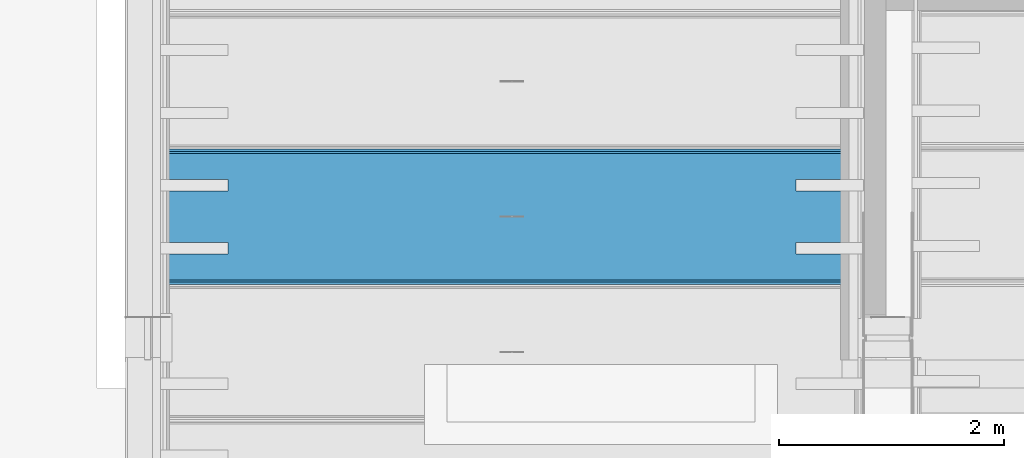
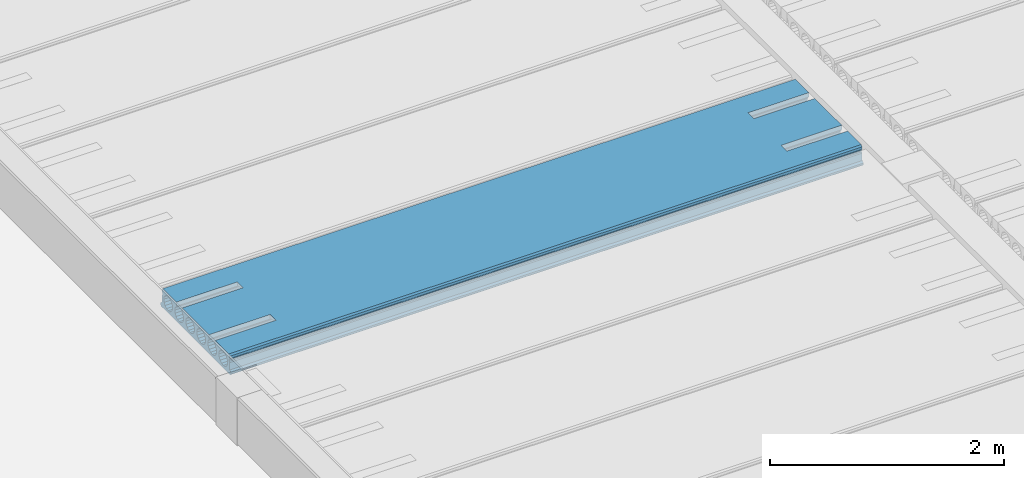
# One storey, part 78 of 230: 1 beam.
"""IFC4X3_ADD2 building model written with IfcOpenShell, lengths in millimetres."""

from ifc_helpers import new_model, si_unit, direction, origin_with_axes, place, context, subcontext, project, spatial, polygons, element, save


model = new_model("IFC4X3_ADD2")

# Units and contexts
model_context = context("Model", 3, precision=1e-05, world=origin_with_axes(), true_north=direction((0.0, 1.0)))
body_context = subcontext(model_context, "Body", "Model", "MODEL_VIEW")
ifc_project = project(units=[si_unit("LENGTHUNIT", "METRE", prefix="MILLI"), si_unit("AREAUNIT", "SQUARE_METRE"), si_unit("VOLUMEUNIT", "CUBIC_METRE"), si_unit("PLANEANGLEUNIT", "RADIAN"), si_unit("TIMEUNIT", "SECOND"), si_unit("MASSUNIT", "GRAM")], contexts=[model_context])

# Site, building, storey
site_placement = place(None, origin_with_axes())
site = spatial("IfcSite", under=ifc_project, at=site_placement, Name="Site", CompositionType="ELEMENT")
building_placement = place(site_placement, origin_with_axes())
building = spatial("IfcBuilding", under=site, at=building_placement, Name="IFC Building Story")
storey_placement = place(building_placement, origin_with_axes())
storey = spatial("IfcBuildingStorey", under=building, at=storey_placement, Name="ETAGE 00 (0)", Elevation=0.0)

# Beam
beam_placement = place(storey_placement, origin_with_axes())
element("IfcBeam", 1, at=beam_placement, inside=storey, Name="HOLLOWCORE SLAB", ObjectType="EB_SP200", context=body_context, shape_type="Tessellation", body=[
    polygons([(33515.6922247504, -6370.999771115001, 3999.9999909), (33515.6922247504, -7548.999771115, 3999.9999909), (33515.6922247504, -7559.999771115, 4012.9999909), (33515.6922247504, -7559.999771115, 4029.9999909), (33515.6922247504, -7539.999771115, 4044.9999909), (33515.6922247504, -7538.549758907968, 4119.9999909), (33515.6922247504, -7531.017149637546, 4128.676139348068), (33515.6922247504, -7528.159841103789, 4139.805000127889), (33515.6922247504, -7530.581134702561, 4151.036789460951), (33515.6922247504, -7537.769790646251, 4159.9999909), (33515.6922247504, -7537.288474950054, 4185.002769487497), (33515.6922247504, -7521.999771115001, 4199.9999909), (33515.6922247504, -7289.999771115, 4199.9999909), (33515.6922247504, -7289.999771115, 4155.806158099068), (33515.6922247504, -7294.679226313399, 4152.679446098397), (33515.6922247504, -7310.828796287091, 4128.509906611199), (33515.6922247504, -7316.499771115, 4099.9999909), (33515.6922247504, -7310.828796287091, 4071.490075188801), (33515.6922247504, -7294.679226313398, 4047.320535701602), (33515.6922247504, -7270.509686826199, 4031.170965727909), (33515.6922247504, -7241.999771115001, 4025.4999909), (33515.6922247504, -7213.489855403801, 4031.170965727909), (33515.6922247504, -7189.320315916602, 4047.320535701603), (33515.6922247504, -7173.170745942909, 4071.490075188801), (33515.6922247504, -7167.499771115, 4099.9999909), (33515.6922247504, -7173.170745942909, 4128.509906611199), (33515.6922247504, -7189.320315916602, 4152.679446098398), (33515.6922247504, -7189.999771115, 4153.13344354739), (33515.6922247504, -7189.999771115, 4199.9999909), (33515.6922247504, -6729.999771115, 4199.9999909), (33515.6922247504, -6729.999771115, 4153.13344354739), (33515.6922247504, -6730.679226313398, 4152.679446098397), (33515.6922247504, -6746.828796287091, 4128.509906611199), (33515.6922247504, -6752.499771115, 4099.9999909), (33515.6922247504, -6746.828796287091, 4071.490075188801), (33515.6922247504, -6730.679226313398, 4047.320535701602), (33515.6922247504, -6706.509686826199, 4031.170965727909), (33515.6922247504, -6677.999771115, 4025.4999909), (33515.6922247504, -6649.489855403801, 4031.170965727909), (33515.6922247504, -6625.320315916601, 4047.320535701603), (33515.6922247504, -6609.170745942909, 4071.490075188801), (33515.6922247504, -6603.499771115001, 4099.9999909), (33515.6922247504, -6609.17074594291, 4128.509906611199), (33515.6922247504, -6625.320315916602, 4152.679446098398), (33515.6922247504, -6629.999771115, 4155.806158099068), (33515.6922247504, -6629.999771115, 4199.9999909), (33515.6922247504, -6397.999771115, 4199.9999909), (33515.6922247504, -6382.711067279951, 4185.002769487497), (33515.6922247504, -6382.22975158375, 4159.9999909), (33515.6922247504, -6389.418407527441, 4151.036789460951), (33515.6922247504, -6391.83970112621, 4139.805000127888), (33515.6922247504, -6388.98239259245, 4128.676139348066), (33515.6922247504, -6381.44978332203, 4119.9999909), (33515.6922247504, -6379.999771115, 4044.9999909), (33515.6922247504, -6359.999771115, 4029.9999909), (33515.6922247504, -6359.999771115, 4012.9999909), (33515.6922247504, -6437.3203159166, 4152.679446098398), (33515.6922247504, -6461.489855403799, 4168.829016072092), (33515.6922247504, -6489.999771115, 4174.4999909), (33515.6922247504, -6518.509686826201, 4168.829016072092), (33515.6922247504, -6542.679226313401, 4152.679446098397), (33515.6922247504, -6558.82879628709, 4128.509906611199), (33515.6922247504, -6564.499771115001, 4099.9999909), (33515.6922247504, -6558.82879628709, 4071.490075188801), (33515.6922247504, -6542.679226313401, 4047.320535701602), (33515.6922247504, -6518.509686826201, 4031.170965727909), (33515.6922247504, -6489.999771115, 4025.4999909), (33515.6922247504, -6461.489855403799, 4031.170965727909), (33515.6922247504, -6437.3203159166, 4047.320535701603), (33515.6922247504, -6421.17074594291, 4071.490075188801), (33515.6922247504, -6415.499771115, 4099.9999909), (33515.6922247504, -6421.17074594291, 4128.509906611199), (33515.6922247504, -6813.320315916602, 4152.679446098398), (33515.6922247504, -6837.489855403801, 4168.829016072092), (33515.6922247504, -6865.999771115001, 4174.4999909), (33515.6922247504, -6894.509686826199, 4168.829016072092), (33515.6922247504, -6918.679226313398, 4152.679446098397), (33515.6922247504, -6934.828796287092, 4128.509906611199), (33515.6922247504, -6940.499771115, 4099.9999909), (33515.6922247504, -6934.828796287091, 4071.490075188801), (33515.6922247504, -6918.679226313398, 4047.320535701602), (33515.6922247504, -6894.509686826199, 4031.170965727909), (33515.6922247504, -6865.999771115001, 4025.4999909), (33515.6922247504, -6837.489855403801, 4031.170965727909), (33515.6922247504, -6813.320315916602, 4047.320535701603), (33515.6922247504, -6797.170745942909, 4071.490075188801), (33515.6922247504, -6791.499771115, 4099.9999909), (33515.6922247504, -6797.170745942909, 4128.509906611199), (33515.6922247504, -7001.320315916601, 4152.679446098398), (33515.6922247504, -7025.489855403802, 4168.829016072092), (33515.6922247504, -7053.999771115, 4174.4999909), (33515.6922247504, -7082.509686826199, 4168.829016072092), (33515.6922247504, -7106.679226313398, 4152.679446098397), (33515.6922247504, -7122.828796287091, 4128.509906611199), (33515.6922247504, -7128.499771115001, 4099.9999909), (33515.6922247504, -7122.828796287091, 4071.490075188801), (33515.6922247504, -7106.679226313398, 4047.320535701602), (33515.6922247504, -7082.509686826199, 4031.170965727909), (33515.6922247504, -7053.999771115, 4025.4999909), (33515.6922247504, -7025.489855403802, 4031.170965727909), (33515.6922247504, -7001.320315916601, 4047.320535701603), (33515.6922247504, -6985.170745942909, 4071.490075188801), (33515.6922247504, -6979.499771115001, 4099.9999909), (33515.6922247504, -6985.17074594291, 4128.509906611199), (33515.6922247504, -7377.320315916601, 4152.679446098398), (33515.6922247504, -7401.489855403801, 4168.829016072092), (33515.6922247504, -7429.999771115, 4174.4999909), (33515.6922247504, -7458.5096868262, 4168.829016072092), (33515.6922247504, -7482.679226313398, 4152.679446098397), (33515.6922247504, -7498.828796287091, 4128.509906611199), (33515.6922247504, -7504.499771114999, 4099.9999909), (33515.6922247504, -7498.828796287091, 4071.490075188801), (33515.6922247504, -7482.679226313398, 4047.320535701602), (33515.6922247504, -7458.5096868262, 4031.170965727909), (33515.6922247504, -7429.999771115, 4025.4999909), (33515.6922247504, -7401.489855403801, 4031.170965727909), (33515.6922247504, -7377.320315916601, 4047.320535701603), (33515.6922247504, -7361.170745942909, 4071.490075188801), (33515.6922247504, -7355.499771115, 4099.9999909), (33515.6922247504, -7361.170745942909, 4128.509906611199), (39750.6922247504, -6370.999771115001, 3999.9999909), (39750.6922247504, -6359.999771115, 4012.9999909), (39750.6922247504, -6359.999771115, 4029.9999909), (39750.6922247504, -6379.999771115, 4044.9999909), (39750.6922247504, -6381.44978332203, 4119.9999909), (39750.6922247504, -6388.98239259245, 4128.676139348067), (39750.6922247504, -6391.83970112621, 4139.805000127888), (39750.6922247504, -6389.418407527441, 4151.036789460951), (39750.6922247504, -6382.22975158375, 4159.9999909), (39750.6922247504, -6382.711067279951, 4185.002769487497), (39750.6922247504, -6397.999771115, 4199.9999909), (39750.6922247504, -6629.999771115, 4199.9999909), (39750.6922247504, -6629.999771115, 4155.806158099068), (39750.6922247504, -6625.320315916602, 4152.679446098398), (39750.6922247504, -6609.170745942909, 4128.509906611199), (39750.6922247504, -6603.499771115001, 4099.9999909), (39750.6922247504, -6609.170745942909, 4071.490075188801), (39750.6922247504, -6625.320315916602, 4047.320535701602), (39750.6922247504, -6649.489855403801, 4031.170965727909), (39750.6922247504, -6677.999771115, 4025.4999909), (39750.6922247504, -6706.509686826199, 4031.170965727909), (39750.6922247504, -6730.679226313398, 4047.320535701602), (39750.6922247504, -6746.828796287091, 4071.490075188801), (39750.6922247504, -6752.499771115, 4099.9999909), (39750.6922247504, -6746.828796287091, 4128.509906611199), (39750.6922247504, -6730.679226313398, 4152.679446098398), (39750.6922247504, -6729.999771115, 4153.13344354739), (39750.6922247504, -6729.999771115, 4199.9999909), (39750.6922247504, -7189.999771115, 4199.9999909), (39750.6922247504, -7189.999771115, 4153.13344354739), (39750.6922247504, -7189.320315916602, 4152.679446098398), (39750.6922247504, -7173.170745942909, 4128.509906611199), (39750.6922247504, -7167.499771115, 4099.9999909), (39750.6922247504, -7173.170745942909, 4071.490075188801), (39750.6922247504, -7189.320315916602, 4047.320535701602), (39750.6922247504, -7213.489855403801, 4031.170965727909), (39750.6922247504, -7241.999771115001, 4025.4999909), (39750.6922247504, -7270.509686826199, 4031.170965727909), (39750.6922247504, -7294.679226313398, 4047.320535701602), (39750.6922247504, -7310.828796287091, 4071.490075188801), (39750.6922247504, -7316.499771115, 4099.9999909), (39750.6922247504, -7310.828796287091, 4128.509906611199), (39750.6922247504, -7294.679226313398, 4152.679446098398), (39750.6922247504, -7289.999771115, 4155.806158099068), (39750.6922247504, -7289.999771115, 4199.9999909), (39750.6922247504, -7521.999771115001, 4199.9999909), (39750.6922247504, -7537.288474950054, 4185.002769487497), (39750.6922247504, -7537.769790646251, 4159.9999909), (39750.6922247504, -7530.581134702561, 4151.036789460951), (39750.6922247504, -7528.159841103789, 4139.805000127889), (39750.6922247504, -7531.017149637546, 4128.676139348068), (39750.6922247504, -7538.54975890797, 4119.9999909), (39750.6922247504, -7539.999771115, 4044.9999909), (39750.6922247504, -7559.999771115, 4029.9999909), (39750.6922247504, -7559.999771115, 4012.9999909), (39750.6922247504, -7548.999771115, 3999.9999909), (39750.6922247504, -6437.3203159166, 4152.679446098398), (39750.6922247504, -6421.17074594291, 4128.509906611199), (39750.6922247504, -6415.499771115, 4099.9999909), (39750.6922247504, -6421.17074594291, 4071.490075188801), (39750.6922247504, -6437.3203159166, 4047.320535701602), (39750.6922247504, -6461.489855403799, 4031.170965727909), (39750.6922247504, -6489.999771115, 4025.4999909), (39750.6922247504, -6518.509686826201, 4031.170965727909), (39750.6922247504, -6542.679226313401, 4047.320535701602), (39750.6922247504, -6558.82879628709, 4071.490075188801), (39750.6922247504, -6564.499771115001, 4099.9999909), (39750.6922247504, -6558.82879628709, 4128.509906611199), (39750.6922247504, -6542.679226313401, 4152.679446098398), (39750.6922247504, -6518.509686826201, 4168.829016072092), (39750.6922247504, -6489.999771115, 4174.4999909), (39750.6922247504, -6461.489855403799, 4168.829016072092), (39750.6922247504, -6813.320315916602, 4152.679446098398), (39750.6922247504, -6797.170745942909, 4128.509906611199), (39750.6922247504, -6791.499771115, 4099.9999909), (39750.6922247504, -6797.170745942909, 4071.490075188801), (39750.6922247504, -6813.320315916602, 4047.320535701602), (39750.6922247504, -6837.489855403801, 4031.170965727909), (39750.6922247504, -6865.999771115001, 4025.4999909), (39750.6922247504, -6894.509686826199, 4031.170965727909), (39750.6922247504, -6918.679226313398, 4047.320535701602), (39750.6922247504, -6934.828796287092, 4071.490075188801), (39750.6922247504, -6940.499771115, 4099.9999909), (39750.6922247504, -6934.828796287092, 4128.509906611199), (39750.6922247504, -6918.679226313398, 4152.679446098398), (39750.6922247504, -6894.509686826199, 4168.829016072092), (39750.6922247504, -6865.999771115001, 4174.4999909), (39750.6922247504, -6837.489855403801, 4168.829016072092), (39750.6922247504, -7001.320315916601, 4152.679446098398), (39750.6922247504, -6985.170745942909, 4128.509906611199), (39750.6922247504, -6979.499771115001, 4099.9999909), (39750.6922247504, -6985.170745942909, 4071.490075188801), (39750.6922247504, -7001.320315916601, 4047.320535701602), (39750.6922247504, -7025.489855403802, 4031.170965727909), (39750.6922247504, -7053.999771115, 4025.4999909), (39750.6922247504, -7082.509686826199, 4031.170965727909), (39750.6922247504, -7106.679226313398, 4047.320535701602), (39750.6922247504, -7122.828796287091, 4071.490075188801), (39750.6922247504, -7128.499771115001, 4099.9999909), (39750.6922247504, -7122.828796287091, 4128.509906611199), (39750.6922247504, -7106.679226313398, 4152.679446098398), (39750.6922247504, -7082.509686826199, 4168.829016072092), (39750.6922247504, -7053.999771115, 4174.4999909), (39750.6922247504, -7025.489855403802, 4168.829016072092), (39750.6922247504, -7377.320315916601, 4152.679446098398), (39750.6922247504, -7361.170745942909, 4128.509906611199), (39750.6922247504, -7355.499771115, 4099.9999909), (39750.6922247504, -7361.170745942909, 4071.490075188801), (39750.6922247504, -7377.320315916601, 4047.320535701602), (39750.6922247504, -7401.489855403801, 4031.170965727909), (39750.6922247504, -7429.999771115, 4025.4999909), (39750.6922247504, -7458.5096868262, 4031.170965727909), (39750.6922247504, -7482.679226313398, 4047.320535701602), (39750.6922247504, -7498.828796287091, 4071.490075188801), (39750.6922247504, -7504.499771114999, 4099.9999909), (39750.6922247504, -7498.828796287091, 4128.509906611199), (39750.6922247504, -7482.679226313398, 4152.679446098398), (39750.6922247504, -7458.5096868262, 4168.829016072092), (39750.6922247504, -7429.999771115, 4174.4999909), (39750.6922247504, -7401.489855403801, 4168.829016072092), (34115.6922247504, -6629.999771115, 4199.9999909), (34115.6922247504, -6729.999771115, 4199.9999909), (34115.6922247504, -7189.999771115, 4199.9999909), (34115.6922247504, -7289.999771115, 4199.9999909), (39150.69222475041, -7289.999771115, 4199.9999909), (39150.69222475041, -7189.999771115, 4199.9999909), (39150.69222475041, -6729.999771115, 4199.9999909), (39150.69222475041, -6629.999771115, 4199.9999909), (39150.69222475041, -6629.999771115, 4155.806158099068), (39150.69222475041, -6649.489855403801, 4168.829016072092), (34115.6922247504, -6649.489855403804, 4168.829016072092), (34115.6922247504, -6629.999771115, 4155.806158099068), (39150.69222475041, -6677.999771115, 4174.4999909), (34115.6922247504, -6677.999771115, 4174.4999909), (39150.69222475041, -6706.509686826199, 4168.829016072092), (34115.6922247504, -6706.509686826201, 4168.82901607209), (34115.6922247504, -6729.999771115, 4153.133443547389), (39150.69222475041, -6729.999771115, 4153.13344354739), (39150.69222475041, -7189.999771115, 4153.133443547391), (39150.69222475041, -7213.489855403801, 4168.829016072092), (34115.6922247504, -7213.489855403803, 4168.829016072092), (34115.6922247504, -7189.999771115, 4153.13344354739), (39150.69222475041, -7241.999771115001, 4174.4999909), (34115.6922247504, -7241.999771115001, 4174.4999909), (39150.69222475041, -7270.509686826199, 4168.829016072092), (34115.6922247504, -7270.509686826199, 4168.829016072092), (34115.6922247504, -7289.999771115, 4155.806158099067), (39150.69222475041, -7289.999771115, 4155.806158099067), (34115.6922247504, -6729.999771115, 4199.999996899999), (34115.6922247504, -6629.999771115, 4199.999996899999), (39150.69222475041, -6629.999771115, 4199.999996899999), (39150.69222475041, -6729.999771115, 4199.999996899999), (39150.69222475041, -7189.999771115, 4199.999996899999), (39150.69222475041, -7289.999771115, 4199.999996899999), (34115.6922247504, -7289.999771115, 4199.999996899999), (34115.6922247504, -7189.999771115, 4199.999996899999)], [[[27, 28, 29]], [[92, 93, 26]], [[92, 26, 27]], [[92, 27, 29]], [[29, 91, 92]], [[91, 29, 30]], [[30, 90, 91]], [[30, 89, 90]], [[94, 95, 25]], [[94, 25, 26]], [[26, 93, 94]], [[96, 97, 24]], [[24, 25, 95]], [[24, 95, 96]], [[97, 23, 24]], [[76, 77, 104]], [[76, 104, 89]], [[89, 75, 76]], [[75, 89, 30]], [[30, 74, 75]], [[30, 73, 74]], [[78, 79, 103]], [[78, 103, 104]], [[104, 77, 78]], [[80, 81, 102]], [[102, 103, 79]], [[102, 79, 80]], [[81, 101, 102]], [[88, 73, 30]], [[88, 30, 31]], [[33, 34, 87]], [[33, 87, 88]], [[88, 32, 33]], [[88, 31, 32]], [[35, 36, 86]], [[86, 87, 34]], [[86, 34, 35]], [[36, 85, 86]], [[44, 45, 46]], [[60, 61, 43]], [[60, 43, 44]], [[60, 44, 46]], [[46, 59, 60]], [[46, 47, 59]], [[47, 58, 59]], [[47, 57, 58]], [[62, 63, 42]], [[62, 42, 43]], [[43, 61, 62]], [[64, 65, 41]], [[41, 42, 63]], [[41, 63, 64]], [[50, 51, 72]], [[50, 72, 57]], [[57, 47, 48]], [[57, 48, 49]], [[57, 49, 50]], [[52, 53, 71]], [[52, 71, 72]], [[72, 51, 52]], [[53, 54, 70]], [[53, 70, 71]], [[54, 55, 56]], [[54, 56, 1]], [[1, 69, 70]], [[1, 70, 54]], [[1, 68, 69]], [[1, 67, 68]], [[1, 66, 67]], [[1, 40, 66]], [[40, 41, 65]], [[40, 65, 66]], [[1, 39, 40]], [[1, 38, 39]], [[1, 84, 38]], [[84, 37, 38]], [[84, 85, 36]], [[84, 36, 37]], [[1, 83, 84]], [[1, 100, 83]], [[100, 82, 83]], [[100, 101, 81]], [[100, 81, 82]], [[1, 99, 100]], [[1, 22, 99]], [[22, 98, 99]], [[22, 23, 97]], [[22, 97, 98]], [[1, 21, 22]], [[1, 2, 21]], [[2, 20, 21]], [[2, 19, 20]], [[9, 10, 11]], [[9, 11, 12]], [[109, 110, 8]], [[109, 8, 9]], [[9, 12, 108]], [[9, 108, 109]], [[12, 107, 108]], [[107, 12, 13]], [[13, 106, 107]], [[13, 105, 106]], [[110, 7, 8]], [[112, 113, 5]], [[5, 6, 111]], [[5, 111, 112]], [[6, 7, 110]], [[6, 110, 111]], [[116, 117, 18]], [[116, 18, 19]], [[19, 115, 116]], [[19, 2, 115]], [[2, 114, 115]], [[2, 5, 113]], [[2, 113, 114]], [[2, 3, 4]], [[2, 4, 5]], [[118, 119, 17]], [[118, 17, 18]], [[18, 117, 118]], [[120, 105, 16]], [[16, 17, 119]], [[16, 119, 120]], [[105, 13, 15]], [[105, 15, 16]], [[13, 14, 15]], [[173, 174, 175]], [[173, 175, 176]], [[128, 129, 130]], [[128, 130, 131]], [[128, 131, 177]], [[177, 178, 127]], [[177, 127, 128]], [[178, 126, 127]], [[180, 181, 124]], [[124, 125, 179]], [[124, 179, 180]], [[125, 126, 178]], [[125, 178, 179]], [[192, 177, 131]], [[131, 191, 192]], [[191, 131, 132]], [[132, 190, 191]], [[132, 189, 190]], [[132, 133, 188]], [[132, 188, 189]], [[135, 136, 187]], [[135, 187, 188]], [[188, 134, 135]], [[188, 133, 134]], [[137, 138, 186]], [[186, 187, 136]], [[186, 136, 137]], [[138, 139, 185]], [[138, 185, 186]], [[139, 184, 185]], [[146, 147, 148]], [[148, 193, 145]], [[148, 145, 146]], [[194, 195, 144]], [[194, 144, 145]], [[145, 193, 194]], [[196, 197, 143]], [[143, 144, 195]], [[143, 195, 196]], [[197, 142, 143]], [[208, 193, 148]], [[148, 207, 208]], [[148, 209, 207]], [[209, 206, 207]], [[209, 205, 206]], [[209, 204, 205]], [[210, 211, 203]], [[210, 203, 204]], [[204, 209, 210]], [[212, 213, 202]], [[202, 203, 211]], [[202, 211, 212]], [[213, 201, 202]], [[224, 209, 148]], [[148, 223, 224]], [[148, 149, 223]], [[149, 222, 223]], [[149, 221, 222]], [[149, 150, 220]], [[149, 220, 221]], [[152, 153, 219]], [[152, 219, 220]], [[220, 151, 152]], [[220, 150, 151]], [[154, 155, 218]], [[218, 219, 153]], [[218, 153, 154]], [[155, 217, 218]], [[163, 164, 165]], [[165, 225, 162]], [[165, 162, 163]], [[226, 227, 161]], [[226, 161, 162]], [[162, 225, 226]], [[228, 229, 160]], [[160, 161, 227]], [[160, 227, 228]], [[235, 236, 171]], [[235, 171, 172]], [[172, 173, 234]], [[172, 234, 235]], [[173, 176, 233]], [[173, 233, 234]], [[176, 232, 233]], [[176, 231, 232]], [[176, 230, 231]], [[176, 159, 230]], [[159, 160, 229]], [[159, 229, 230]], [[176, 158, 159]], [[176, 157, 158]], [[176, 216, 157]], [[216, 156, 157]], [[216, 217, 155]], [[216, 155, 156]], [[176, 215, 216]], [[176, 200, 215]], [[200, 214, 215]], [[200, 201, 213]], [[200, 213, 214]], [[176, 199, 200]], [[176, 141, 199]], [[141, 198, 199]], [[141, 142, 197]], [[141, 197, 198]], [[176, 140, 141]], [[176, 183, 140]], [[183, 184, 139]], [[183, 139, 140]], [[176, 121, 183]], [[121, 182, 183]], [[121, 124, 181]], [[121, 181, 182]], [[121, 122, 123]], [[121, 123, 124]], [[236, 170, 171]], [[240, 225, 165]], [[165, 239, 240]], [[165, 166, 239]], [[166, 238, 239]], [[166, 169, 237]], [[166, 237, 238]], [[169, 170, 236]], [[169, 236, 237]], [[166, 167, 168]], [[166, 168, 169]], [[2, 1, 121, 176]], [[3, 2, 176, 175]], [[4, 3, 175, 174]], [[5, 4, 174, 173]], [[6, 5, 173, 172]], [[7, 6, 172, 171]], [[8, 7, 171, 170]], [[9, 8, 170, 169]], [[10, 9, 169, 168]], [[11, 10, 168, 167]], [[12, 11, 167, 166]], [[242, 30, 29]], [[242, 29, 243]], [[244, 13, 12]], [[244, 12, 166]], [[166, 243, 244]], [[242, 243, 166]], [[166, 241, 242]], [[246, 149, 148]], [[246, 148, 247]], [[248, 132, 131]], [[248, 131, 47]], [[47, 247, 248]], [[246, 247, 47]], [[47, 245, 246]], [[47, 241, 166]], [[47, 166, 245]], [[166, 165, 245]], [[47, 46, 241]], [[48, 47, 131, 130]], [[49, 48, 130, 129]], [[50, 49, 129, 128]], [[51, 50, 128, 127]], [[52, 51, 127, 126]], [[53, 52, 126, 125]], [[54, 53, 125, 124]], [[55, 54, 124, 123]], [[56, 55, 123, 122]], [[1, 56, 122, 121]], [[58, 57, 177, 192]], [[59, 58, 192, 191]], [[60, 59, 191, 190]], [[61, 60, 190, 189]], [[62, 61, 189, 188]], [[63, 62, 188, 187]], [[64, 63, 187, 186]], [[65, 64, 186, 185]], [[66, 65, 185, 184]], [[67, 66, 184, 183]], [[68, 67, 183, 182]], [[69, 68, 182, 181]], [[70, 69, 181, 180]], [[71, 70, 180, 179]], [[72, 71, 179, 178]], [[57, 72, 178, 177]], [[252, 45, 44]], [[252, 44, 249]], [[249, 250, 251]], [[249, 251, 252]], [[44, 134, 249]], [[134, 133, 249]], [[251, 250, 253, 254]], [[254, 253, 255, 256]], [[258, 147, 146]], [[258, 146, 257]], [[257, 256, 255]], [[257, 255, 258]], [[146, 32, 257]], [[32, 31, 257]], [[33, 32, 146, 145]], [[34, 33, 145, 144]], [[35, 34, 144, 143]], [[36, 35, 143, 142]], [[37, 36, 142, 141]], [[38, 37, 141, 140]], [[39, 38, 140, 139]], [[40, 39, 139, 138]], [[41, 40, 138, 137]], [[42, 41, 137, 136]], [[43, 42, 136, 135]], [[44, 43, 135, 134]], [[74, 73, 193, 208]], [[75, 74, 208, 207]], [[76, 75, 207, 206]], [[77, 76, 206, 205]], [[78, 77, 205, 204]], [[79, 78, 204, 203]], [[80, 79, 203, 202]], [[81, 80, 202, 201]], [[82, 81, 201, 200]], [[83, 82, 200, 199]], [[84, 83, 199, 198]], [[85, 84, 198, 197]], [[86, 85, 197, 196]], [[87, 86, 196, 195]], [[88, 87, 195, 194]], [[73, 88, 194, 193]], [[90, 89, 209, 224]], [[91, 90, 224, 223]], [[92, 91, 223, 222]], [[93, 92, 222, 221]], [[94, 93, 221, 220]], [[95, 94, 220, 219]], [[96, 95, 219, 218]], [[97, 96, 218, 217]], [[98, 97, 217, 216]], [[99, 98, 216, 215]], [[100, 99, 215, 214]], [[101, 100, 214, 213]], [[102, 101, 213, 212]], [[103, 102, 212, 211]], [[104, 103, 211, 210]], [[89, 104, 210, 209]], [[262, 28, 27]], [[262, 27, 259]], [[259, 260, 261]], [[259, 261, 262]], [[27, 151, 259]], [[151, 150, 259]], [[260, 263, 264, 261]], [[263, 265, 266, 264]], [[268, 164, 163]], [[268, 163, 267]], [[267, 266, 265]], [[267, 265, 268]], [[163, 15, 267]], [[15, 14, 267]], [[16, 15, 163, 162]], [[17, 16, 162, 161]], [[18, 17, 161, 160]], [[19, 18, 160, 159]], [[20, 19, 159, 158]], [[21, 20, 158, 157]], [[22, 21, 157, 156]], [[23, 22, 156, 155]], [[24, 23, 155, 154]], [[25, 24, 154, 153]], [[26, 25, 153, 152]], [[27, 26, 152, 151]], [[106, 105, 225, 240]], [[107, 106, 240, 239]], [[108, 107, 239, 238]], [[109, 108, 238, 237]], [[110, 109, 237, 236]], [[111, 110, 236, 235]], [[112, 111, 235, 234]], [[113, 112, 234, 233]], [[114, 113, 233, 232]], [[115, 114, 232, 231]], [[116, 115, 231, 230]], [[117, 116, 230, 229]], [[118, 117, 229, 228]], [[119, 118, 228, 227]], [[120, 119, 227, 226]], [[105, 120, 226, 225]], [[46, 45, 252, 241]], [[31, 30, 269, 257]], [[256, 257, 242]], [[242, 270, 254]], [[242, 254, 256]], [[270, 251, 254]], [[270, 252, 251]], [[148, 147, 258, 247]], [[133, 132, 271, 249]], [[250, 249, 248]], [[248, 253, 250]], [[248, 272, 255]], [[248, 255, 253]], [[272, 258, 255]], [[165, 164, 268, 245]], [[150, 149, 273, 259]], [[260, 259, 246]], [[246, 274, 263]], [[246, 263, 260]], [[274, 265, 263]], [[274, 268, 265]], [[262, 243, 29, 28]], [[275, 267, 14, 13]], [[266, 267, 244]], [[244, 264, 266]], [[244, 276, 261]], [[244, 261, 264]], [[276, 262, 261]]]),
])

save(model, "model.ifc")
